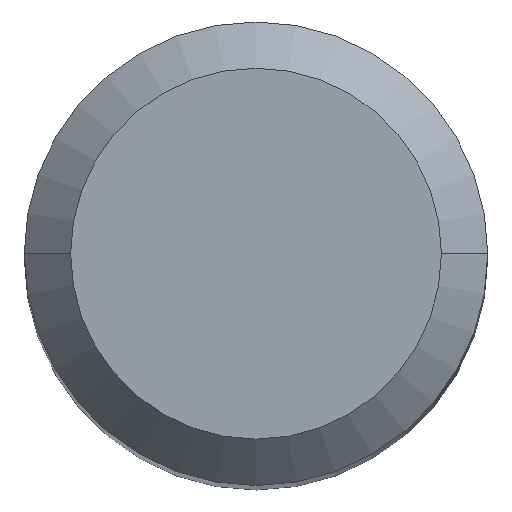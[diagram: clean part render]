
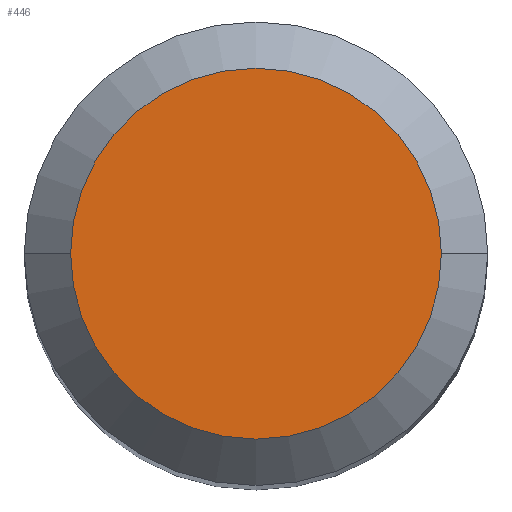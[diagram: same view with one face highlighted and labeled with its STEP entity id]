
A CAD part, top view. The second image highlights one B-rep face of the part: STEP entity #446.
In plain terms, the highlighted planar face has unit normal (0, 0, 1).
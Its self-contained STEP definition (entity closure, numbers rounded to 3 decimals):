
#20 = CIRCLE ( 'NONE', #541, 2.4 ) ;
#37 = VERTEX_POINT ( 'NONE', #218 ) ;
#89 = CARTESIAN_POINT ( 'NONE',  ( 0., 0., 0. ) ) ;
#121 = EDGE_CURVE ( 'NONE', #291, #37, #479, .T. ) ;
#149 = ORIENTED_EDGE ( 'NONE', *, *, #121, .F. ) ;
#178 = DIRECTION ( 'NONE',  ( 1., 0., 0. ) ) ;
#190 = AXIS2_PLACEMENT_3D ( 'NONE', #328, #524, #573 ) ;
#191 = ORIENTED_EDGE ( 'NONE', *, *, #558, .F. ) ;
#218 = CARTESIAN_POINT ( 'NONE',  ( 2.4, 0., 0. ) ) ;
#225 = DIRECTION ( 'NONE',  ( -1., 0., 0. ) ) ;
#284 = CARTESIAN_POINT ( 'NONE',  ( 0., 2.4, 0. ) ) ;
#291 = VERTEX_POINT ( 'NONE', #472 ) ;
#293 = DIRECTION ( 'NONE',  ( 0., 0., -1. ) ) ;
#319 = AXIS2_PLACEMENT_3D ( 'NONE', #284, #562, #178 ) ;
#328 = CARTESIAN_POINT ( 'NONE',  ( 0., 0., 0. ) ) ;
#377 = PLANE ( 'NONE',  #319 ) ;
#425 = FACE_OUTER_BOUND ( 'NONE', #457, .T. ) ;
#446 = ADVANCED_FACE ( 'NONE', ( #425 ), #377, .T. ) ;
#457 = EDGE_LOOP ( 'NONE', ( #149, #191 ) ) ;
#472 = CARTESIAN_POINT ( 'NONE',  ( -2.4, 0., 0. ) ) ;
#479 = CIRCLE ( 'NONE', #190, 2.4 ) ;
#524 = DIRECTION ( 'NONE',  ( 0., 0., -1. ) ) ;
#541 = AXIS2_PLACEMENT_3D ( 'NONE', #89, #293, #225 ) ;
#558 = EDGE_CURVE ( 'NONE', #37, #291, #20, .T. ) ;
#562 = DIRECTION ( 'NONE',  ( 0., 0., 1. ) ) ;
#573 = DIRECTION ( 'NONE',  ( -1., 0., 0. ) ) ;
